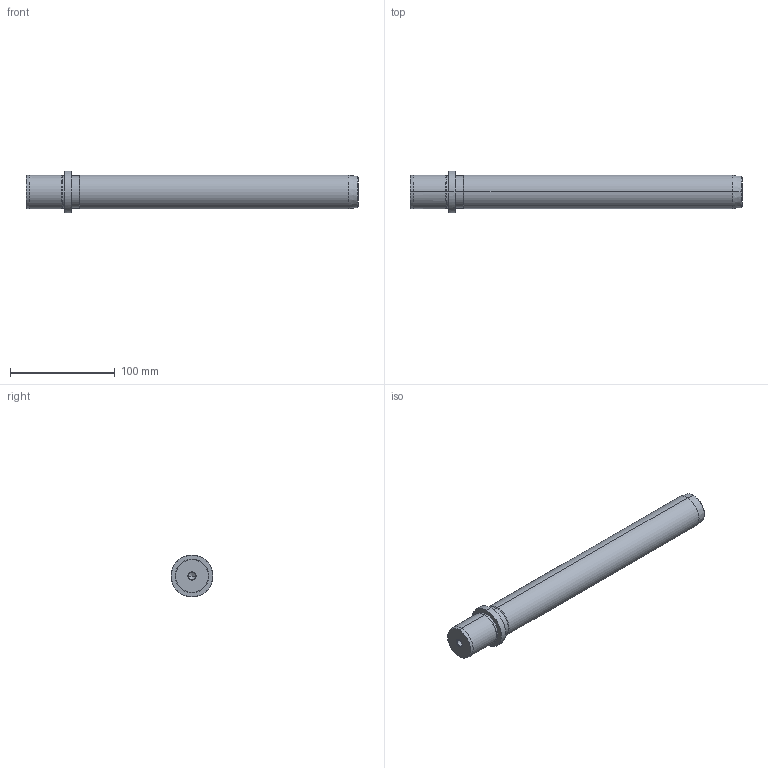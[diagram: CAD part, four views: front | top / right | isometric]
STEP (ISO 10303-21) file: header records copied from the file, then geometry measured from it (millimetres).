
FILE_DESCRIPTION(('CATIA V5 STEP Exchange'),'2;1');
FILE_NAME('C:\Users\Utente\Desktop\IO LAVORO\3D X SITO CF\X SITO\719\719-32x280.stp','2021-01-03T15:47:37+00:00',('none'),('none'),'CATIA Version 5 Release 20 GA (IN-10)','CATIA V5 STEP AP203','none');
FILE_SCHEMA(('CONFIG_CONTROL_DESIGN'));
Length unit declared in the file: millimetre
Products named in the file (1): 719-32x280
Bounding box: 317 x 40 x 40 mm (x, y, z)
Volume: 254777.6 mm3; surface area: 35408.2 mm2
Topology: 1 solids, 1 shells, 36 faces, 100 edges, 66 vertices
Faces by surface type: cone 16, cylinder 14, plane 4, torus 2
Entity records: 1270 total; most frequent: CARTESIAN_POINT 339, ORIENTED_EDGE 192, DIRECTION 158, EDGE_CURVE 96, AXIS2_PLACEMENT_3D 93, VERTEX_POINT 66, CIRCLE 56, EDGE_LOOP 40
